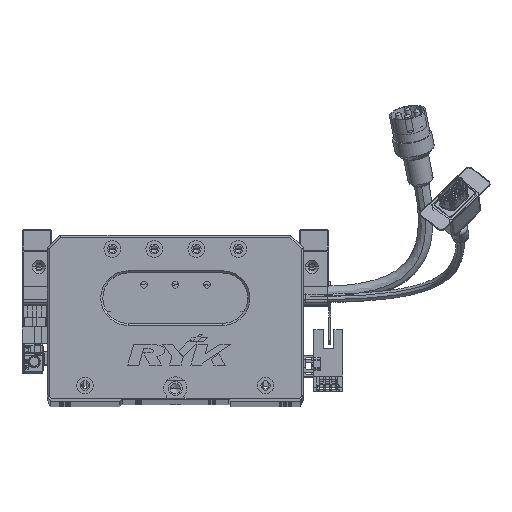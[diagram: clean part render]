
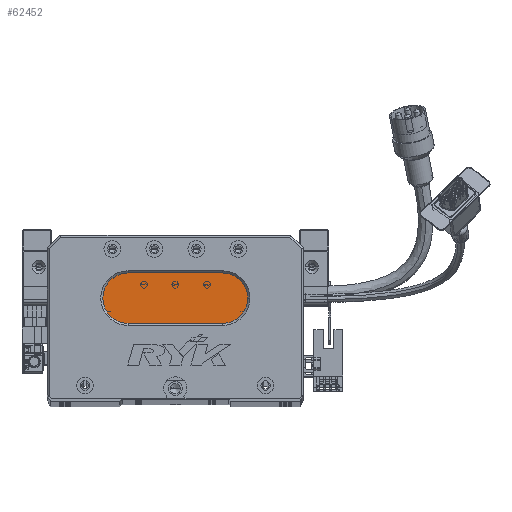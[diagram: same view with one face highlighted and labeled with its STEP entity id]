
A CAD part, top view. The second image highlights one B-rep face of the part: STEP entity #62452.
In plain terms, the highlighted planar face has unit normal (0, 0, 1) as drawn and (0, 0, -1) by its records, which use the part's own axes.
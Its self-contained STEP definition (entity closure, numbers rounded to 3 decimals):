
#168 = PLANE ( 'NONE',  #5136 ) ;
#4390 = CARTESIAN_POINT ( 'NONE',  ( 83.5, 36., 13. ) ) ;
#5071 = ORIENTED_EDGE ( 'NONE', *, *, #18802, .T. ) ;
#5136 = AXIS2_PLACEMENT_3D ( 'NONE', #51033, #44347, #14780 ) ;
#5556 = EDGE_LOOP ( 'NONE', ( #80450, #15264, #5071, #27977, #80888 ) ) ;
#5955 = LINE ( 'NONE', #4390, #42320 ) ;
#9495 = CIRCLE ( 'NONE', #69243, 12. ) ;
#10447 = EDGE_CURVE ( 'NONE', #71668, #58315, #5955, .T. ) ;
#14780 = DIRECTION ( 'NONE',  ( -1., 0., 0. ) ) ;
#15264 = ORIENTED_EDGE ( 'NONE', *, *, #10447, .T. ) ;
#16580 = DIRECTION ( 'NONE',  ( 0., 0., -1. ) ) ;
#18802 = EDGE_CURVE ( 'NONE', #58315, #70286, #43816, .T. ) ;
#20075 = CIRCLE ( 'NONE', #25774, 12. ) ;
#20943 = CARTESIAN_POINT ( 'NONE',  ( 26.5, 48., 13. ) ) ;
#24473 = DIRECTION ( 'NONE',  ( -1., 0., 0. ) ) ;
#24517 = LINE ( 'NONE', #36638, #88199 ) ;
#25774 = AXIS2_PLACEMENT_3D ( 'NONE', #48676, #63309, #40670 ) ;
#25963 = FACE_OUTER_BOUND ( 'NONE', #5556, .T. ) ;
#26371 = CARTESIAN_POINT ( 'NONE',  ( 83.5, 36., 13. ) ) ;
#27977 = ORIENTED_EDGE ( 'NONE', *, *, #76465, .T. ) ;
#36638 = CARTESIAN_POINT ( 'NONE',  ( 83.5, 60., 13. ) ) ;
#40670 = DIRECTION ( 'NONE',  ( -1., 0., 0. ) ) ;
#42320 = VECTOR ( 'NONE', #55222, 1000. ) ;
#43816 = CIRCLE ( 'NONE', #54766, 12. ) ;
#44347 = DIRECTION ( 'NONE',  ( 0., 0., -1. ) ) ;
#45795 = CARTESIAN_POINT ( 'NONE',  ( 83.5, 60., 13. ) ) ;
#48676 = CARTESIAN_POINT ( 'NONE',  ( 83.5, 48., 13. ) ) ;
#49900 = CARTESIAN_POINT ( 'NONE',  ( 38.5, 36., 13. ) ) ;
#51033 = CARTESIAN_POINT ( 'NONE',  ( 83.5, 48., 13. ) ) ;
#54766 = AXIS2_PLACEMENT_3D ( 'NONE', #75085, #16580, #24473 ) ;
#55222 = DIRECTION ( 'NONE',  ( -1., 0., 0. ) ) ;
#58315 = VERTEX_POINT ( 'NONE', #49900 ) ;
#59726 = CARTESIAN_POINT ( 'NONE',  ( 38.5, 48., 13. ) ) ;
#62452 = ADVANCED_FACE ( 'NONE', ( #25963 ), #168, .T. ) ;
#63309 = DIRECTION ( 'NONE',  ( 0., 0., -1. ) ) ;
#66593 = DIRECTION ( 'NONE',  ( 1., 0., 0. ) ) ;
#69243 = AXIS2_PLACEMENT_3D ( 'NONE', #59726, #73744, #81356 ) ;
#70286 = VERTEX_POINT ( 'NONE', #20943 ) ;
#71668 = VERTEX_POINT ( 'NONE', #26371 ) ;
#73744 = DIRECTION ( 'NONE',  ( 0., 0., -1. ) ) ;
#75085 = CARTESIAN_POINT ( 'NONE',  ( 38.5, 48., 13. ) ) ;
#76465 = EDGE_CURVE ( 'NONE', #70286, #90215, #9495, .T. ) ;
#77026 = CARTESIAN_POINT ( 'NONE',  ( 38.5, 60., 13. ) ) ;
#80450 = ORIENTED_EDGE ( 'NONE', *, *, #82609, .T. ) ;
#80888 = ORIENTED_EDGE ( 'NONE', *, *, #83259, .T. ) ;
#81356 = DIRECTION ( 'NONE',  ( -1., 0., 0. ) ) ;
#82609 = EDGE_CURVE ( 'NONE', #84066, #71668, #20075, .T. ) ;
#83259 = EDGE_CURVE ( 'NONE', #90215, #84066, #24517, .T. ) ;
#84066 = VERTEX_POINT ( 'NONE', #45795 ) ;
#88199 = VECTOR ( 'NONE', #66593, 1000. ) ;
#90215 = VERTEX_POINT ( 'NONE', #77026 ) ;
